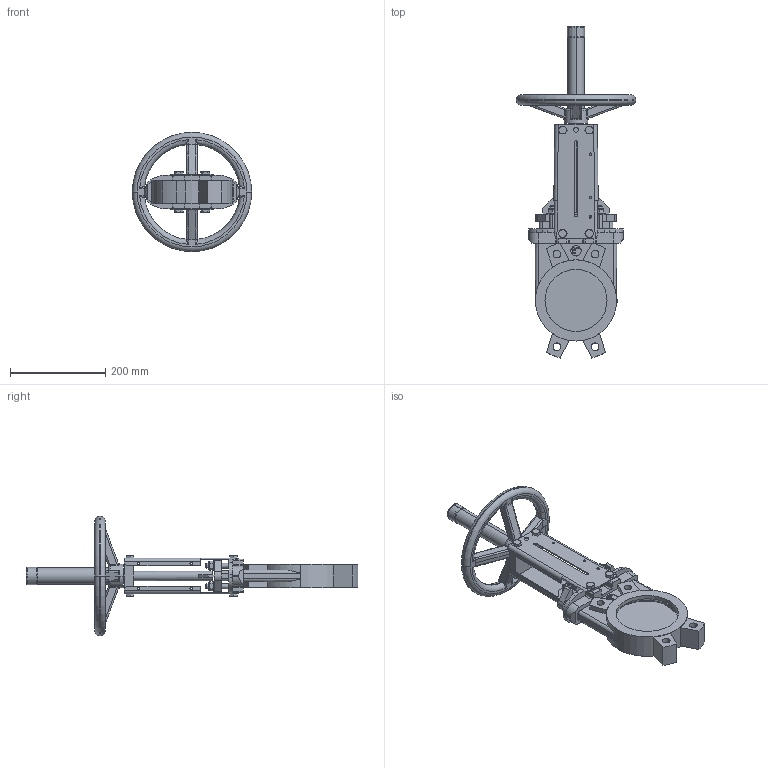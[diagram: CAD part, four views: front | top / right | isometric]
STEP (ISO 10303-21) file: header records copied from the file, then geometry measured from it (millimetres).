
FILE_DESCRIPTION (( 'STEP AP203' ), '1' );
FILE_NAME ('VG DN125.STEP', '2010-01-27T07:45:18', ( 'farex' ), ( '' ), 'SwSTEP 2.0', 'SolidWorks 2009', '' );
FILE_SCHEMA (( 'CONFIG_CONTROL_DESIGN' ));
Length unit declared in the file: millimetre
Products named in the file (1): VG DN125
Bounding box: 250 x 695.53 x 250 mm (x, y, z)
Volume: 2276088.2 mm3; surface area: 469453.2 mm2
Topology: 1 solids, 7 shells, 833 faces, 2187 edges, 1404 vertices
Faces by surface type: plane 403, cylinder 229, cone 88, bspline 64, torus 49
Entity records: 29725 total; most frequent: CARTESIAN_POINT 9438, ORIENTED_EDGE 4374, DIRECTION 4012, EDGE_CURVE 2187, AXIS2_PLACEMENT_3D 1424, VERTEX_POINT 1404, VECTOR 1164, LINE 1164
